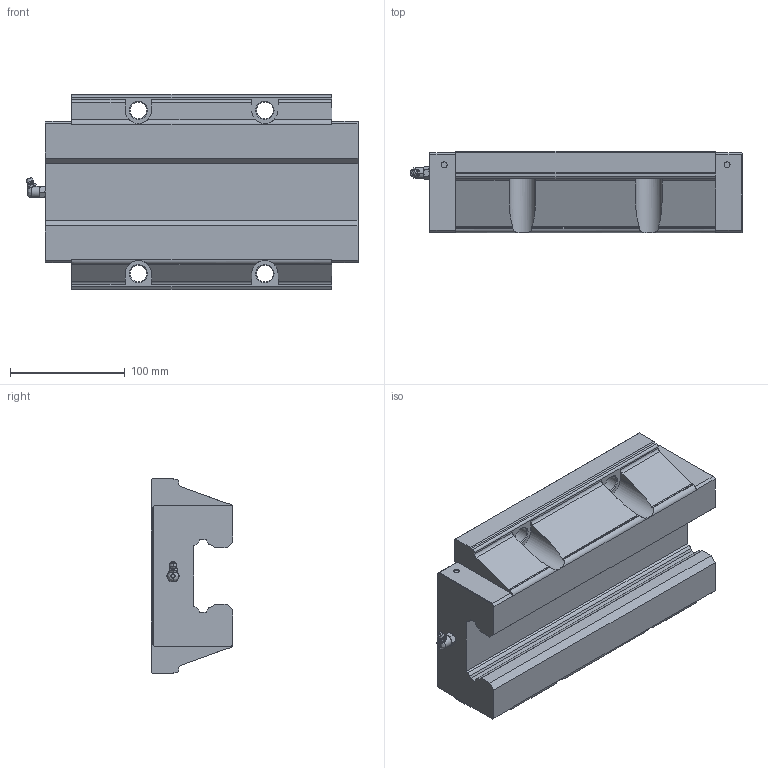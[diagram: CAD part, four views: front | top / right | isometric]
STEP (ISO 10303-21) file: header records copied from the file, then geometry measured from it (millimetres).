
FILE_DESCRIPTION (( 'STEP AP203' ), '1' );
FILE_NAME ('SHS65LC.step', '2017-09-18T07:14:43', ( '' ), ( '' ), 'SwSTEP 2.0', 'SolidWorks 2017', '' );
FILE_SCHEMA (( 'CONFIG_CONTROL_DESIGN' ));
Length unit declared in the file: millimetre
Products named in the file (1): SHS65LC
Bounding box: 288.7 x 71 x 170 mm (x, y, z)
Volume: 2237723.1 mm3; surface area: 165400.1 mm2
Topology: 2 solids, 2 shells, 200 faces, 532 edges, 338 vertices
Faces by surface type: plane 105, cylinder 46, cone 40, bspline 9
Entity records: 6753 total; most frequent: CARTESIAN_POINT 1774, ORIENTED_EDGE 1050, DIRECTION 990, EDGE_CURVE 525, VERTEX_POINT 338, AXIS2_PLACEMENT_3D 334, LINE 322, VECTOR 322
